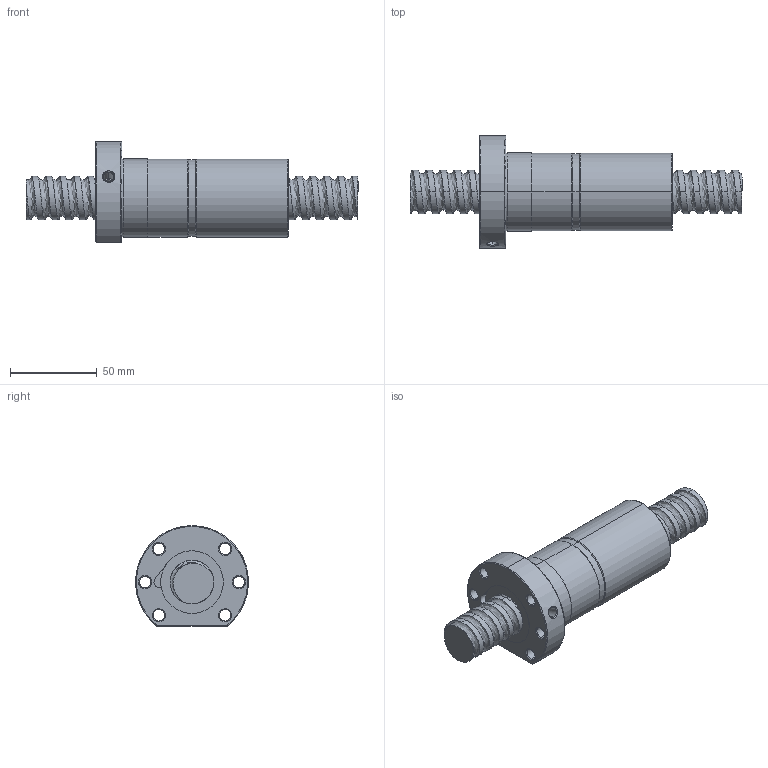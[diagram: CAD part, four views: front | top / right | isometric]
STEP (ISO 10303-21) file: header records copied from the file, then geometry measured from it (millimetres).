
FILE_DESCRIPTION (( 'STEP AP214' ), '1' );
FILE_NAME ('FDDC02508T4-D-B.STEP', '2010-07-06T02:51:02', ( 'XPAUTO' ), ( 'XPAUTO' ), 'SwSTEP 2.0', 'SolidWorks 2007', '' );
FILE_SCHEMA (( 'AUTOMOTIVE_DESIGN' ));
Length unit declared in the file: millimetre
Products named in the file (3): FDDC02508T4-D-B; FDDC02508T4-D-B.sldasm-Part-2_預設; FDDC02508T4-D-B.sldasm-Part-1_預設
Assembly tree (2 placements, depth 2):
  FDDC02508T4-D-B
    FDDC02508T4-D-B.sldasm-Part-2_預設
    FDDC02508T4-D-B.sldasm-Part-1_預設
Bounding box: 191 x 64.8 x 58 mm (x, y, z)
Volume: 221332.6 mm3; surface area: 50994.9 mm2
Topology: 2 solids, 2 shells, 148 faces, 373 edges, 234 vertices
Faces by surface type: cylinder 90, cone 24, plane 20, torus 9, bspline 5
Entity records: 31237 total; most frequent: CARTESIAN_POINT 27733, ORIENTED_EDGE 746, DIRECTION 669, EDGE_CURVE 373, AXIS2_PLACEMENT_3D 271, VERTEX_POINT 234, EDGE_LOOP 169, FACE_OUTER_BOUND 148
